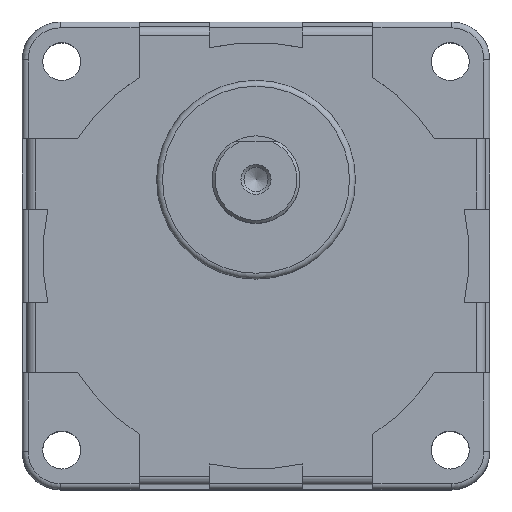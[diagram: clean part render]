
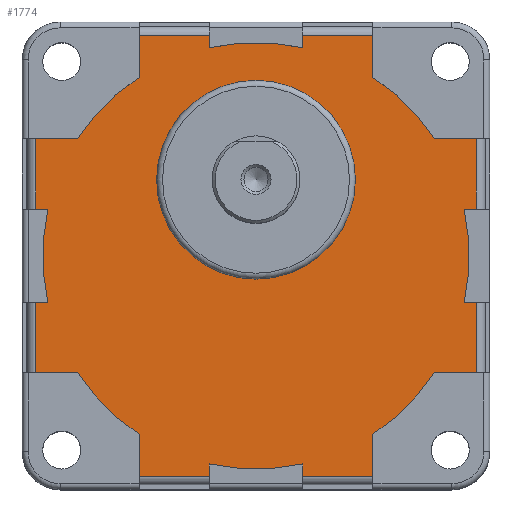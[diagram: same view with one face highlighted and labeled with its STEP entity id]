
A CAD part, top view. The second image highlights one B-rep face of the part: STEP entity #1774.
In plain terms, the highlighted planar face has unit normal (0, 0, 1).
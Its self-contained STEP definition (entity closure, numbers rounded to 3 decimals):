
#29=LINE('',#2698,#196);
#33=LINE('',#2710,#200);
#35=LINE('',#2716,#202);
#36=LINE('',#2720,#203);
#37=LINE('',#2722,#204);
#38=LINE('',#2724,#205);
#39=LINE('',#2728,#206);
#40=LINE('',#2730,#207);
#41=LINE('',#2732,#208);
#42=LINE('',#2736,#209);
#43=LINE('',#2738,#210);
#44=LINE('',#2740,#211);
#45=LINE('',#2744,#212);
#46=LINE('',#2746,#213);
#47=LINE('',#2748,#214);
#48=LINE('',#2752,#215);
#49=LINE('',#2754,#216);
#50=LINE('',#2756,#217);
#51=LINE('',#2760,#218);
#52=LINE('',#2762,#219);
#53=LINE('',#2764,#220);
#54=LINE('',#2767,#221);
#55=LINE('',#2769,#222);
#56=LINE('',#2772,#223);
#196=VECTOR('',#2150,12.);
#200=VECTOR('',#2160,12.);
#202=VECTOR('',#2166,7.167);
#203=VECTOR('',#2169,7.167);
#204=VECTOR('',#2170,12.);
#205=VECTOR('',#2171,2.088);
#206=VECTOR('',#2174,2.088);
#207=VECTOR('',#2175,12.);
#208=VECTOR('',#2176,7.167);
#209=VECTOR('',#2179,7.167);
#210=VECTOR('',#2180,12.);
#211=VECTOR('',#2181,2.088);
#212=VECTOR('',#2184,2.088);
#213=VECTOR('',#2185,12.);
#214=VECTOR('',#2186,7.167);
#215=VECTOR('',#2189,7.167);
#216=VECTOR('',#2190,12.);
#217=VECTOR('',#2191,2.088);
#218=VECTOR('',#2194,2.088);
#219=VECTOR('',#2195,12.);
#220=VECTOR('',#2196,7.167);
#221=VECTOR('',#2199,7.167);
#222=VECTOR('',#2200,2.088);
#223=VECTOR('',#2203,2.088);
#364=PLANE('',#1906);
#465=FACE_BOUND('',#615,.T.);
#495=FACE_OUTER_BOUND('',#614,.T.);
#614=EDGE_LOOP('',(#1297,#1298,#1299,#1300,#1301,#1302,#1303,#1304,#1305,
#1306,#1307,#1308,#1309,#1310,#1311,#1312,#1313,#1314,#1315,#1316,#1317,
#1318,#1319,#1320,#1321,#1322,#1323,#1324,#1325,#1326,#1327,#1328));
#615=EDGE_LOOP('',(#1329));
#727=CIRCLE('',#1897,17.);
#732=CIRCLE('',#1907,36.5);
#733=CIRCLE('',#1908,36.5);
#734=CIRCLE('',#1909,36.5);
#735=CIRCLE('',#1910,36.5);
#736=CIRCLE('',#1911,36.5);
#737=CIRCLE('',#1912,36.5);
#738=CIRCLE('',#1913,36.5);
#739=CIRCLE('',#1914,36.5);
#824=VERTEX_POINT('',#2687);
#825=VERTEX_POINT('',#2691);
#828=VERTEX_POINT('',#2696);
#832=VERTEX_POINT('',#2707);
#833=VERTEX_POINT('',#2709);
#835=VERTEX_POINT('',#2715);
#836=VERTEX_POINT('',#2717);
#837=VERTEX_POINT('',#2719);
#838=VERTEX_POINT('',#2721);
#839=VERTEX_POINT('',#2723);
#840=VERTEX_POINT('',#2725);
#841=VERTEX_POINT('',#2727);
#842=VERTEX_POINT('',#2729);
#843=VERTEX_POINT('',#2731);
#844=VERTEX_POINT('',#2733);
#845=VERTEX_POINT('',#2735);
#846=VERTEX_POINT('',#2737);
#847=VERTEX_POINT('',#2739);
#848=VERTEX_POINT('',#2741);
#849=VERTEX_POINT('',#2743);
#850=VERTEX_POINT('',#2745);
#851=VERTEX_POINT('',#2747);
#852=VERTEX_POINT('',#2749);
#853=VERTEX_POINT('',#2751);
#854=VERTEX_POINT('',#2753);
#855=VERTEX_POINT('',#2755);
#856=VERTEX_POINT('',#2757);
#857=VERTEX_POINT('',#2759);
#858=VERTEX_POINT('',#2761);
#859=VERTEX_POINT('',#2763);
#860=VERTEX_POINT('',#2765);
#861=VERTEX_POINT('',#2768);
#862=VERTEX_POINT('',#2770);
#1004=EDGE_CURVE('',#824,#824,#727,.T.);
#1008=EDGE_CURVE('',#828,#825,#29,.T.);
#1013=EDGE_CURVE('',#832,#833,#33,.T.);
#1016=EDGE_CURVE('',#828,#835,#35,.T.);
#1017=EDGE_CURVE('',#836,#835,#732,.T.);
#1018=EDGE_CURVE('',#837,#836,#36,.T.);
#1019=EDGE_CURVE('',#838,#837,#37,.T.);
#1020=EDGE_CURVE('',#839,#838,#38,.T.);
#1021=EDGE_CURVE('',#840,#839,#733,.T.);
#1022=EDGE_CURVE('',#840,#841,#39,.T.);
#1023=EDGE_CURVE('',#842,#841,#40,.T.);
#1024=EDGE_CURVE('',#842,#843,#41,.T.);
#1025=EDGE_CURVE('',#844,#843,#734,.T.);
#1026=EDGE_CURVE('',#845,#844,#42,.T.);
#1027=EDGE_CURVE('',#846,#845,#43,.T.);
#1028=EDGE_CURVE('',#847,#846,#44,.T.);
#1029=EDGE_CURVE('',#848,#847,#735,.T.);
#1030=EDGE_CURVE('',#848,#849,#45,.T.);
#1031=EDGE_CURVE('',#850,#849,#46,.T.);
#1032=EDGE_CURVE('',#850,#851,#47,.T.);
#1033=EDGE_CURVE('',#852,#851,#736,.T.);
#1034=EDGE_CURVE('',#853,#852,#48,.T.);
#1035=EDGE_CURVE('',#854,#853,#49,.T.);
#1036=EDGE_CURVE('',#855,#854,#50,.T.);
#1037=EDGE_CURVE('',#856,#855,#737,.T.);
#1038=EDGE_CURVE('',#856,#857,#51,.T.);
#1039=EDGE_CURVE('',#858,#857,#52,.T.);
#1040=EDGE_CURVE('',#858,#859,#53,.T.);
#1041=EDGE_CURVE('',#860,#859,#738,.T.);
#1042=EDGE_CURVE('',#833,#860,#54,.T.);
#1043=EDGE_CURVE('',#861,#832,#55,.T.);
#1044=EDGE_CURVE('',#862,#861,#739,.T.);
#1045=EDGE_CURVE('',#862,#825,#56,.T.);
#1297=ORIENTED_EDGE('',*,*,#1008,.F.);
#1298=ORIENTED_EDGE('',*,*,#1016,.T.);
#1299=ORIENTED_EDGE('',*,*,#1017,.F.);
#1300=ORIENTED_EDGE('',*,*,#1018,.F.);
#1301=ORIENTED_EDGE('',*,*,#1019,.F.);
#1302=ORIENTED_EDGE('',*,*,#1020,.F.);
#1303=ORIENTED_EDGE('',*,*,#1021,.F.);
#1304=ORIENTED_EDGE('',*,*,#1022,.T.);
#1305=ORIENTED_EDGE('',*,*,#1023,.F.);
#1306=ORIENTED_EDGE('',*,*,#1024,.T.);
#1307=ORIENTED_EDGE('',*,*,#1025,.F.);
#1308=ORIENTED_EDGE('',*,*,#1026,.F.);
#1309=ORIENTED_EDGE('',*,*,#1027,.F.);
#1310=ORIENTED_EDGE('',*,*,#1028,.F.);
#1311=ORIENTED_EDGE('',*,*,#1029,.F.);
#1312=ORIENTED_EDGE('',*,*,#1030,.T.);
#1313=ORIENTED_EDGE('',*,*,#1031,.F.);
#1314=ORIENTED_EDGE('',*,*,#1032,.T.);
#1315=ORIENTED_EDGE('',*,*,#1033,.F.);
#1316=ORIENTED_EDGE('',*,*,#1034,.F.);
#1317=ORIENTED_EDGE('',*,*,#1035,.F.);
#1318=ORIENTED_EDGE('',*,*,#1036,.F.);
#1319=ORIENTED_EDGE('',*,*,#1037,.F.);
#1320=ORIENTED_EDGE('',*,*,#1038,.T.);
#1321=ORIENTED_EDGE('',*,*,#1039,.F.);
#1322=ORIENTED_EDGE('',*,*,#1040,.T.);
#1323=ORIENTED_EDGE('',*,*,#1041,.F.);
#1324=ORIENTED_EDGE('',*,*,#1042,.F.);
#1325=ORIENTED_EDGE('',*,*,#1013,.F.);
#1326=ORIENTED_EDGE('',*,*,#1043,.F.);
#1327=ORIENTED_EDGE('',*,*,#1044,.F.);
#1328=ORIENTED_EDGE('',*,*,#1045,.T.);
#1329=ORIENTED_EDGE('',*,*,#1004,.F.);
#1774=ADVANCED_FACE('',(#495,#465),#364,.T.);
#1897=AXIS2_PLACEMENT_3D('',#2688,#2139,#2140);
#1906=AXIS2_PLACEMENT_3D('',#2714,#2164,#2165);
#1907=AXIS2_PLACEMENT_3D('',#2718,#2167,#2168);
#1908=AXIS2_PLACEMENT_3D('',#2726,#2172,#2173);
#1909=AXIS2_PLACEMENT_3D('',#2734,#2177,#2178);
#1910=AXIS2_PLACEMENT_3D('',#2742,#2182,#2183);
#1911=AXIS2_PLACEMENT_3D('',#2750,#2187,#2188);
#1912=AXIS2_PLACEMENT_3D('',#2758,#2192,#2193);
#1913=AXIS2_PLACEMENT_3D('',#2766,#2197,#2198);
#1914=AXIS2_PLACEMENT_3D('',#2771,#2201,#2202);
#2139=DIRECTION('center_axis',(0.,0.,1.));
#2140=DIRECTION('ref_axis',(-1.,0.,0.));
#2150=DIRECTION('',(0.,-1.,0.));
#2160=DIRECTION('',(0.,-1.,0.));
#2164=DIRECTION('center_axis',(0.,0.,1.));
#2165=DIRECTION('ref_axis',(1.,0.,0.));
#2166=DIRECTION('',(-1.,0.,0.));
#2167=DIRECTION('center_axis',(0.,0.,-1.));
#2168=DIRECTION('ref_axis',(-1.,0.,0.));
#2169=DIRECTION('',(0.,-1.,0.));
#2170=DIRECTION('',(1.,0.,0.));
#2171=DIRECTION('',(0.,1.,0.));
#2172=DIRECTION('center_axis',(0.,0.,-1.));
#2173=DIRECTION('ref_axis',(-1.,0.,0.));
#2174=DIRECTION('',(0.,1.,0.));
#2175=DIRECTION('',(1.,0.,0.));
#2176=DIRECTION('',(0.,-1.,0.));
#2177=DIRECTION('center_axis',(0.,0.,-1.));
#2178=DIRECTION('ref_axis',(-1.,0.,0.));
#2179=DIRECTION('',(1.,0.,0.));
#2180=DIRECTION('',(0.,1.,0.));
#2181=DIRECTION('',(-1.,0.,0.));
#2182=DIRECTION('center_axis',(0.,0.,-1.));
#2183=DIRECTION('ref_axis',(-1.,0.,0.));
#2184=DIRECTION('',(-1.,0.,0.));
#2185=DIRECTION('',(0.,1.,0.));
#2186=DIRECTION('',(1.,0.,0.));
#2187=DIRECTION('center_axis',(0.,0.,-1.));
#2188=DIRECTION('ref_axis',(-1.,0.,0.));
#2189=DIRECTION('',(0.,1.,0.));
#2190=DIRECTION('',(-1.,0.,0.));
#2191=DIRECTION('',(0.,-1.,0.));
#2192=DIRECTION('center_axis',(0.,0.,-1.));
#2193=DIRECTION('ref_axis',(-1.,0.,0.));
#2194=DIRECTION('',(0.,-1.,0.));
#2195=DIRECTION('',(-1.,0.,0.));
#2196=DIRECTION('',(0.,1.,0.));
#2197=DIRECTION('center_axis',(0.,0.,-1.));
#2198=DIRECTION('ref_axis',(-1.,0.,0.));
#2199=DIRECTION('',(-1.,0.,0.));
#2200=DIRECTION('',(1.,0.,0.));
#2201=DIRECTION('center_axis',(0.,0.,-1.));
#2202=DIRECTION('ref_axis',(-1.,0.,0.));
#2203=DIRECTION('',(1.,0.,0.));
#2687=CARTESIAN_POINT('',(17.,13.,40.2));
#2688=CARTESIAN_POINT('Origin',(0.,13.,40.2));
#2691=CARTESIAN_POINT('',(37.7,8.,40.2));
#2696=CARTESIAN_POINT('',(37.7,20.,40.2));
#2698=CARTESIAN_POINT('',(37.7,10.,40.2));
#2707=CARTESIAN_POINT('',(37.7,-8.,40.2));
#2709=CARTESIAN_POINT('',(37.7,-20.,40.2));
#2710=CARTESIAN_POINT('',(37.7,-10.,40.2));
#2714=CARTESIAN_POINT('Origin',(0.,0.,40.2));
#2715=CARTESIAN_POINT('',(30.533,20.,40.2));
#2716=CARTESIAN_POINT('',(30.533,20.,40.2));
#2717=CARTESIAN_POINT('',(20.,30.533,40.2));
#2718=CARTESIAN_POINT('Origin',(0.,0.,40.2));
#2719=CARTESIAN_POINT('',(20.,37.7,40.2));
#2720=CARTESIAN_POINT('',(20.,30.533,40.2));
#2721=CARTESIAN_POINT('',(8.,37.7,40.2));
#2722=CARTESIAN_POINT('',(10.,37.7,40.2));
#2723=CARTESIAN_POINT('',(8.,35.612,40.2));
#2724=CARTESIAN_POINT('',(8.,40.,40.2));
#2725=CARTESIAN_POINT('',(-8.,35.612,40.2));
#2726=CARTESIAN_POINT('Origin',(0.,0.,40.2));
#2727=CARTESIAN_POINT('',(-8.,37.7,40.2));
#2728=CARTESIAN_POINT('',(-8.,40.,40.2));
#2729=CARTESIAN_POINT('',(-20.,37.7,40.2));
#2730=CARTESIAN_POINT('',(-10.,37.7,40.2));
#2731=CARTESIAN_POINT('',(-20.,30.533,40.2));
#2732=CARTESIAN_POINT('',(-20.,30.533,40.2));
#2733=CARTESIAN_POINT('',(-30.533,20.,40.2));
#2734=CARTESIAN_POINT('Origin',(0.,0.,40.2));
#2735=CARTESIAN_POINT('',(-37.7,20.,40.2));
#2736=CARTESIAN_POINT('',(-30.533,20.,40.2));
#2737=CARTESIAN_POINT('',(-37.7,8.,40.2));
#2738=CARTESIAN_POINT('',(-37.7,10.,40.2));
#2739=CARTESIAN_POINT('',(-35.612,8.,40.2));
#2740=CARTESIAN_POINT('',(-40.,8.,40.2));
#2741=CARTESIAN_POINT('',(-35.612,-8.,40.2));
#2742=CARTESIAN_POINT('Origin',(0.,0.,40.2));
#2743=CARTESIAN_POINT('',(-37.7,-8.,40.2));
#2744=CARTESIAN_POINT('',(-40.,-8.,40.2));
#2745=CARTESIAN_POINT('',(-37.7,-20.,40.2));
#2746=CARTESIAN_POINT('',(-37.7,-10.,40.2));
#2747=CARTESIAN_POINT('',(-30.533,-20.,40.2));
#2748=CARTESIAN_POINT('',(-30.533,-20.,40.2));
#2749=CARTESIAN_POINT('',(-20.,-30.533,40.2));
#2750=CARTESIAN_POINT('Origin',(0.,0.,40.2));
#2751=CARTESIAN_POINT('',(-20.,-37.7,40.2));
#2752=CARTESIAN_POINT('',(-20.,-30.533,40.2));
#2753=CARTESIAN_POINT('',(-8.,-37.7,40.2));
#2754=CARTESIAN_POINT('',(-10.,-37.7,40.2));
#2755=CARTESIAN_POINT('',(-8.,-35.612,40.2));
#2756=CARTESIAN_POINT('',(-8.,-40.,40.2));
#2757=CARTESIAN_POINT('',(8.,-35.612,40.2));
#2758=CARTESIAN_POINT('Origin',(0.,0.,40.2));
#2759=CARTESIAN_POINT('',(8.,-37.7,40.2));
#2760=CARTESIAN_POINT('',(8.,-40.,40.2));
#2761=CARTESIAN_POINT('',(20.,-37.7,40.2));
#2762=CARTESIAN_POINT('',(10.,-37.7,40.2));
#2763=CARTESIAN_POINT('',(20.,-30.533,40.2));
#2764=CARTESIAN_POINT('',(20.,-30.533,40.2));
#2765=CARTESIAN_POINT('',(30.533,-20.,40.2));
#2766=CARTESIAN_POINT('Origin',(0.,0.,40.2));
#2767=CARTESIAN_POINT('',(30.533,-20.,40.2));
#2768=CARTESIAN_POINT('',(35.612,-8.,40.2));
#2769=CARTESIAN_POINT('',(40.,-8.,40.2));
#2770=CARTESIAN_POINT('',(35.612,8.,40.2));
#2771=CARTESIAN_POINT('Origin',(0.,0.,40.2));
#2772=CARTESIAN_POINT('',(40.,8.,40.2));
